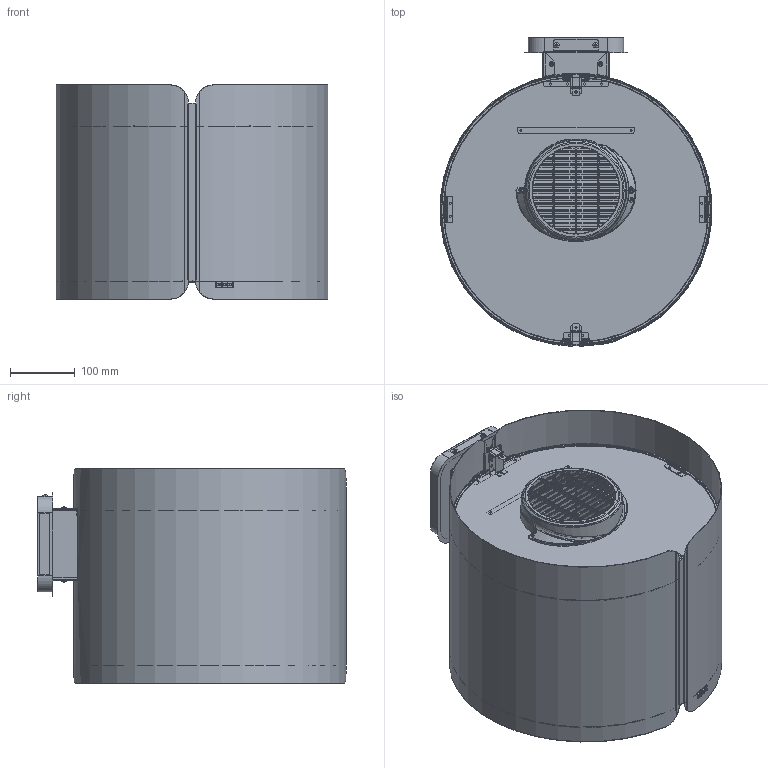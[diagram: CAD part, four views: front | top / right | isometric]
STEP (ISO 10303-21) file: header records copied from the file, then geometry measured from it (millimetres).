
FILE_DESCRIPTION(/* description */ (''),/* implementation_level */ '2;1');
FILE_NAME(/* name */ '3D001_Hoods_Smart_FSMS-WALL-F42',/* time_stamp */ '2024-02-12T15:09:38+01:00',/* author */ (''),/* organization */ (''),/* preprocessor_version */ 'ST-DEVELOPER v19.2',/* originating_system */ 'Rhino 8.3',/* authorisation */ '');
FILE_SCHEMA (('CONFIG_CONTROL_DESIGN'));
Products named in the file (29): Document; FIN_060; SCR_036; 345019_046; 345019_736_ASM; 345019_038; 345019_040; SCR_003; 345019_039; 345019_045; SCR_016; K21_731_ASM; K21_040; L01_009; D24_105; CME_759; 345019_019; 345019_742_ASM; 345019_043; 345019_044; 345019_018; SCR_017; CMM_239; 345019_741_ASM; 345019_050; 345019_102; 345019_103; 345019_016; 345019_042
Bounding box: 418.55 x 475.16 x 330 mm (x, y, z)
Volume: 1231468.2 mm3; surface area: 2083177 mm2
Topology: 52 solids, 56 shells, 7430 faces, 19776 edges, 12397 vertices
Faces by surface type: plane 4077, cylinder 2208, bspline 1145
Entity records: 242629 total; most frequent: CARTESIAN_POINT 124943, ORIENTED_EDGE 29483, EDGE_CURVE 14756, DIRECTION 12151, B_SPLINE_CURVE_WITH_KNOTS 11150, VERTEX_POINT 9262, AXIS2_PLACEMENT_3D 8443, EDGE_LOOP 6068
